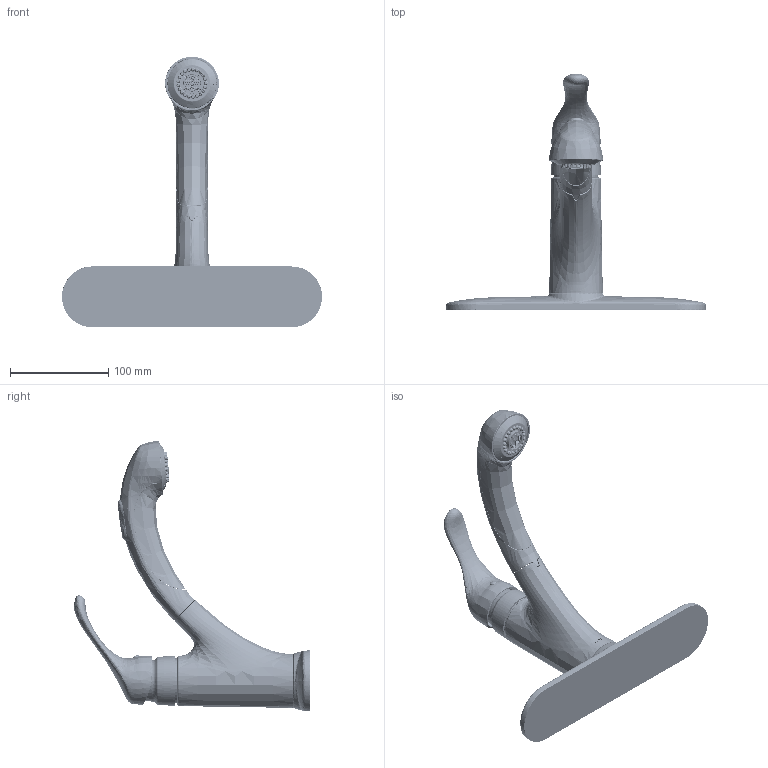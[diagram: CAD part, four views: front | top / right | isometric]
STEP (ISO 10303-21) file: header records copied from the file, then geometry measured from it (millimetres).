
FILE_DESCRIPTION (( 'STEP AP203' ), '1' );
FILE_NAME ('sku_87144series_stp.STEP', '2026-02-03T07:34:42', ( '' ), ( '' ), 'SwSTEP 2.0', 'SolidWorks 2025', '' );
FILE_SCHEMA (( 'CONFIG_CONTROL_DESIGN' ));
Products named in the file (3): Copy of Part1^Assem1_Part1^87144; sku_87144series_stp; 169535SERIES_Part43
Assembly tree (2 placements, depth 2):
  sku_87144series_stp
    Copy of Part1^Assem1_Part1^87144
    169535SERIES_Part43
Bounding box: 264.34 x 239.96 x 275.09 mm (x, y, z)
Volume: 305219.6 mm3; surface area: 275409.6 mm2
Topology: 6 solids, 48 shells, 10563 faces, 26968 edges, 16404 vertices
Faces by surface type: plane 4311, bspline 2609, cylinder 1843, cone 837, torus 517, sphere 446
Entity records: 510445 total; most frequent: CARTESIAN_POINT 288548, ORIENTED_EDGE 53700, DIRECTION 34508, EDGE_CURVE 26850, VERTEX_POINT 16400, AXIS2_PLACEMENT_3D 12723, B_SPLINE_CURVE_WITH_KNOTS 11978, EDGE_LOOP 11446
